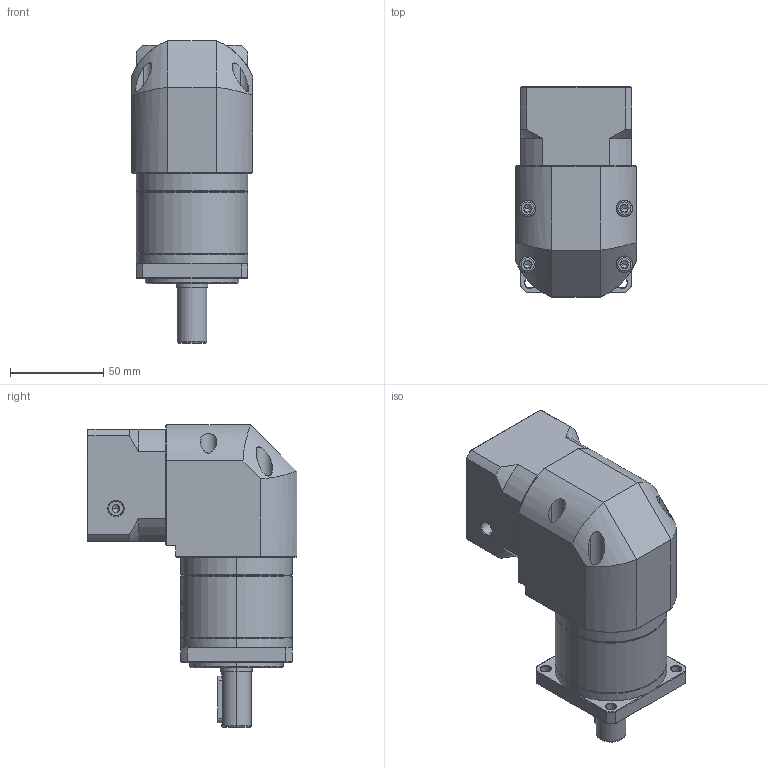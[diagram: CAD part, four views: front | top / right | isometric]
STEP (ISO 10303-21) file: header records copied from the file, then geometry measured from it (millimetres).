
FILE_DESCRIPTION (( 'STEP AP214' ), '1' );
FILE_NAME ('ZFR060-D16-L1-P2-14-50-70-M4.step', '2023-08-17T03:33:39', ( '' ), ( '' ), 'SwSTEP 2.0', 'SolidWorks 2016', '' );
FILE_SCHEMA (( 'AUTOMOTIVE_DESIGN' ));
Length unit declared in the file: millimetre
Products named in the file (1): ZFR060-D16-L1-P2-14-50-70-M4
Bounding box: 65 x 112.7 x 162.5 mm (x, y, z)
Volume: 538269.1 mm3; surface area: 78325.1 mm2
Topology: 5 solids, 6 shells, 1914 faces, 5101 edges, 3284 vertices
Faces by surface type: plane 847, cylinder 399, bspline 366, cone 290, torus 12
Entity records: 104350 total; most frequent: CARTESIAN_POINT 39888, ORIENTED_EDGE 10158, DIRECTION 7544, EDGE_CURVE 5079, VERTEX_POINT 3284, LINE 2594, VECTOR 2594, AXIS2_PLACEMENT_3D 2475
